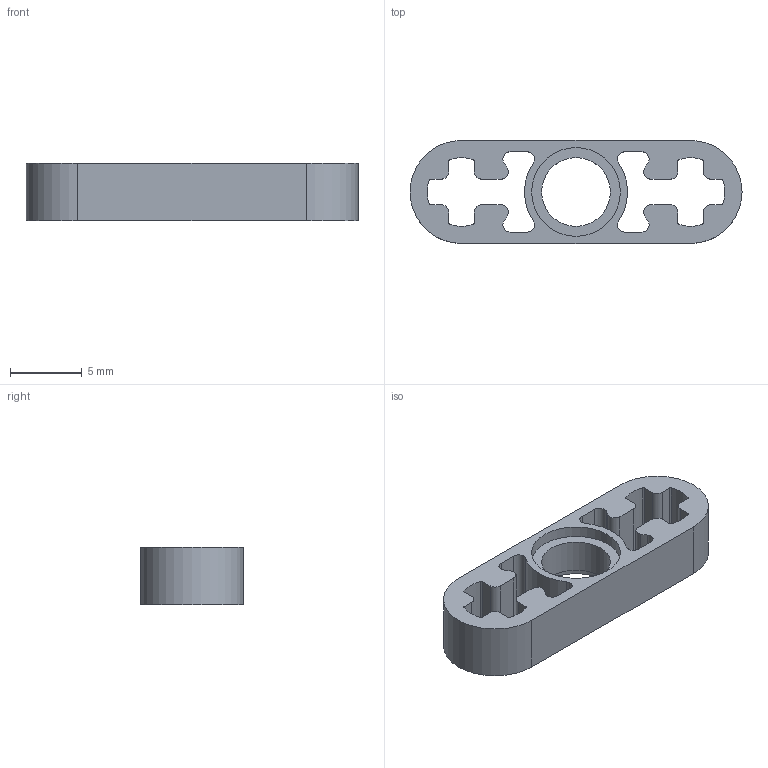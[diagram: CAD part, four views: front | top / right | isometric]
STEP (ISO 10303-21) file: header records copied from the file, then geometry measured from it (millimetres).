
FILE_DESCRIPTION(/* description */ ('Unknown'),/* implementation_level */ '2;1');
FILE_NAME(/* name */ 'Ye_4107823_AVV',/* time_stamp */ '2025-07-22T00:06:11+02:00',/* author */ ('Unknown'),/* organization */ ('Unknown'),/* preprocessor_version */ 'ST-DEVELOPER v19.4',/* originating_system */ 'Solid Edge',/* authorisation */ 'Unknown');
FILE_SCHEMA (('AUTOMOTIVE_DESIGN {1 0 10303 214 3 1 1}'));
Length unit declared in the file: millimetre
Products named in the file (1): Ye_4107823_AVV
Bounding box: 23.2 x 7.2 x 4 mm (x, y, z)
Volume: 337.3 mm3; surface area: 706.2 mm2
Topology: 1 solids, 1 shells, 75 faces, 213 edges, 142 vertices
Faces by surface type: cylinder 49, plane 26
Full cylindrical faces by diameter (mm): 4.8 x1, 6.2 x2
Entity records: 2512 total; most frequent: DIRECTION 460, CARTESIAN_POINT 428, ORIENTED_EDGE 420, EDGE_CURVE 210, AXIS2_PLACEMENT_3D 174, VERTEX_POINT 142, LINE 112, VECTOR 112
